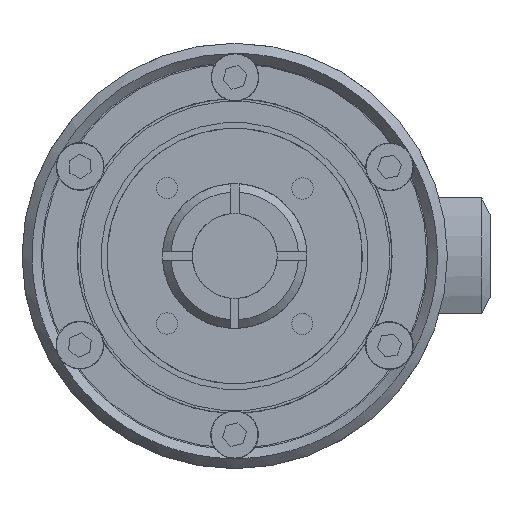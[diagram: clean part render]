
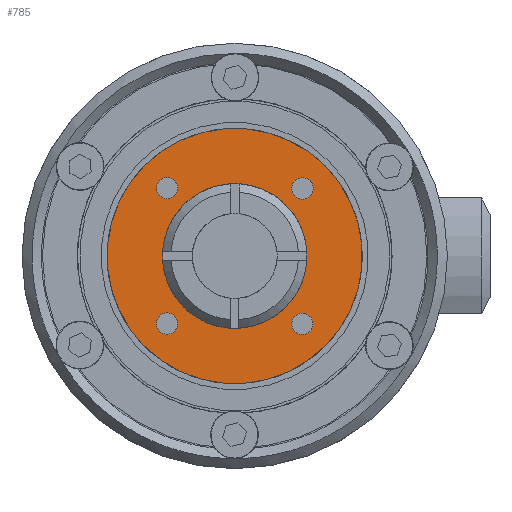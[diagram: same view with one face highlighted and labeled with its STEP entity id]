
A CAD part, left-side view. The second image highlights one B-rep face of the part: STEP entity #785.
In plain terms, the highlighted planar face has unit normal (-1, 0, 0) as drawn and (0, -1, 0) by its records, which use the part's own axes.
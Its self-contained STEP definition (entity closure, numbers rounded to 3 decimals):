
#785 = ADVANCED_FACE( '', ( #1520, #1521, #1522, #1523, #1524, #1525 ), #1526, .F. );
#1520 = FACE_OUTER_BOUND( '', #2363, .T. );
#1521 = FACE_BOUND( '', #2364, .T. );
#1522 = FACE_BOUND( '', #2365, .T. );
#1523 = FACE_BOUND( '', #2366, .T. );
#1524 = FACE_BOUND( '', #2367, .T. );
#1525 = FACE_BOUND( '', #2368, .T. );
#1526 = PLANE( '', #2369 );
#2363 = EDGE_LOOP( '', ( #4246 ) );
#2364 = EDGE_LOOP( '', ( #4247 ) );
#2365 = EDGE_LOOP( '', ( #4248 ) );
#2366 = EDGE_LOOP( '', ( #4249 ) );
#2367 = EDGE_LOOP( '', ( #4250 ) );
#2368 = EDGE_LOOP( '', ( #4251 ) );
#2369 = AXIS2_PLACEMENT_3D( '', #4252, #4253, #4254 );
#4246 = ORIENTED_EDGE( '', *, *, #5306, .T. );
#4247 = ORIENTED_EDGE( '', *, *, #5313, .F. );
#4248 = ORIENTED_EDGE( '', *, *, #5314, .F. );
#4249 = ORIENTED_EDGE( '', *, *, #5312, .F. );
#4250 = ORIENTED_EDGE( '', *, *, #5315, .F. );
#4251 = ORIENTED_EDGE( '', *, *, #5316, .F. );
#4252 = CARTESIAN_POINT( '', ( 0., 0., 15. ) );
#4253 = DIRECTION( '', ( 0., 1., 0. ) );
#4254 = DIRECTION( '', ( 1., 0., 0. ) );
#5306 = EDGE_CURVE( '', #6269, #6269, #6270, .T. );
#5312 = EDGE_CURVE( '', #6281, #6281, #6282, .T. );
#5313 = EDGE_CURVE( '', #6283, #6283, #6284, .T. );
#5314 = EDGE_CURVE( '', #6285, #6285, #6286, .T. );
#5315 = EDGE_CURVE( '', #6287, #6287, #6288, .T. );
#5316 = EDGE_CURVE( '', #6289, #6289, #6290, .T. );
#6269 = VERTEX_POINT( '', #7851 );
#6270 = CIRCLE( '', #7852, 15. );
#6281 = VERTEX_POINT( '', #7863 );
#6282 = CIRCLE( '', #7864, 1.25 );
#6283 = VERTEX_POINT( '', #7865 );
#6284 = CIRCLE( '', #7866, 1.25 );
#6285 = VERTEX_POINT( '', #7867 );
#6286 = CIRCLE( '', #7868, 1.25 );
#6287 = VERTEX_POINT( '', #7869 );
#6288 = CIRCLE( '', #7870, 1.25 );
#6289 = VERTEX_POINT( '', #7871 );
#6290 = CIRCLE( '', #7872, 8.5 );
#7851 = CARTESIAN_POINT( '', ( 0., 0., -15. ) );
#7852 = AXIS2_PLACEMENT_3D( '', #9349, #9350, #9351 );
#7863 = CARTESIAN_POINT( '', ( 11.25, 0., -1.25 ) );
#7864 = AXIS2_PLACEMENT_3D( '', #9367, #9368, #9369 );
#7865 = CARTESIAN_POINT( '', ( -11.25, 0., 1.25 ) );
#7866 = AXIS2_PLACEMENT_3D( '', #9370, #9371, #9372 );
#7867 = CARTESIAN_POINT( '', ( -1.25, 0., -11.25 ) );
#7868 = AXIS2_PLACEMENT_3D( '', #9373, #9374, #9375 );
#7869 = CARTESIAN_POINT( '', ( 1.25, 0., 11.25 ) );
#7870 = AXIS2_PLACEMENT_3D( '', #9376, #9377, #9378 );
#7871 = CARTESIAN_POINT( '', ( 0., 0., -8.5 ) );
#7872 = AXIS2_PLACEMENT_3D( '', #9379, #9380, #9381 );
#9349 = CARTESIAN_POINT( '', ( 0., 0., 0. ) );
#9350 = DIRECTION( '', ( 0., -1., 0. ) );
#9351 = DIRECTION( '', ( 0., 0., -1. ) );
#9367 = CARTESIAN_POINT( '', ( 11.25, 0., 0. ) );
#9368 = DIRECTION( '', ( 0., -1., 0. ) );
#9369 = DIRECTION( '', ( 0., 0., -1. ) );
#9370 = CARTESIAN_POINT( '', ( -11.25, 0., 0. ) );
#9371 = DIRECTION( '', ( 0., -1., 0. ) );
#9372 = DIRECTION( '', ( 0., 0., 1. ) );
#9373 = CARTESIAN_POINT( '', ( 0., 0., -11.25 ) );
#9374 = DIRECTION( '', ( 0., -1., 0. ) );
#9375 = DIRECTION( '', ( -1., 0., 0. ) );
#9376 = CARTESIAN_POINT( '', ( 0., 0., 11.25 ) );
#9377 = DIRECTION( '', ( 0., -1., 0. ) );
#9378 = DIRECTION( '', ( 1., 0., 0. ) );
#9379 = CARTESIAN_POINT( '', ( 0., 0., 0. ) );
#9380 = DIRECTION( '', ( 0., -1., 0. ) );
#9381 = DIRECTION( '', ( 0., 0., -1. ) );
